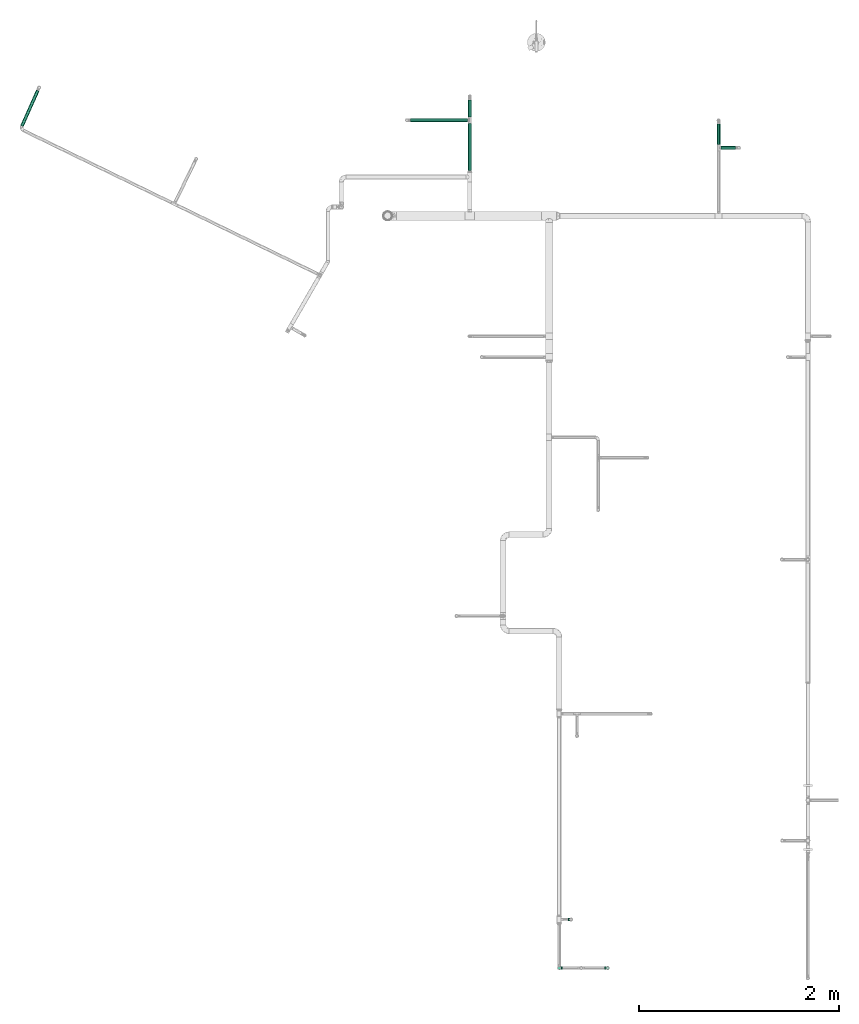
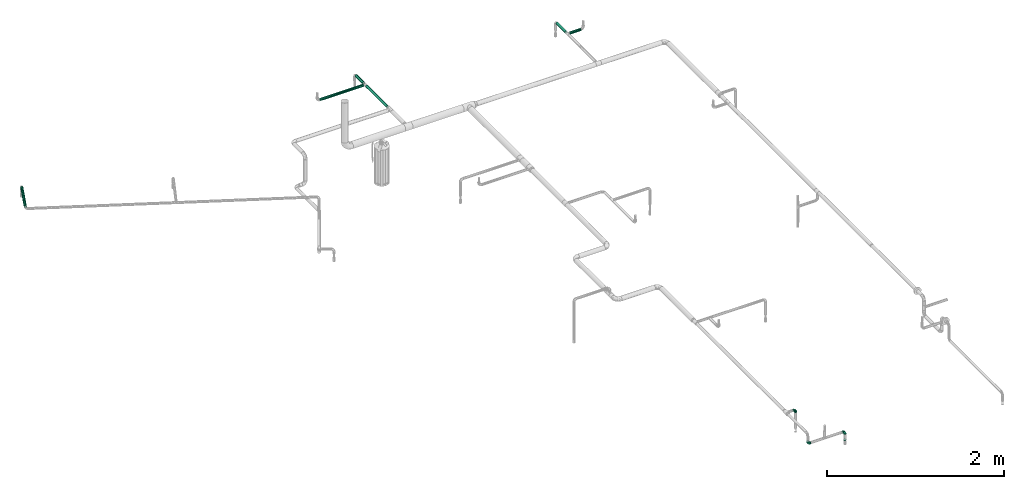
# One storey, part 11 of 43: 6 flow segments, 4 flow fittings.
"""IFC2X3 building model written with IfcOpenShell, lengths in millimetres."""

from ifc_helpers import new_model, entity, si_unit, converted_unit, derived_unit, direction, frame, origin_with_axes, origin_2d_with_axis, place, context, subcontext, project, spatial, hollow_circle, extrude, open_shell, surface_model, source, transform, mapped, type_object, element, save


model = new_model("IFC2X3")

# Units and contexts
model_context = context("Model", 3, precision=0.01, world=frame((0.0, 4.29681676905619e-09, 0.0)), true_north=direction((4.01073788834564e-13, 1.0)))
plan_context = context("Plan", 3, precision=0.01, world=frame((0.0, 4.29681676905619e-09, 0.0)), true_north=direction((4.01073788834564e-13, 1.0)))
body_context = subcontext(model_context, "Body", "Model", "MODEL_VIEW")
ifc_project = project(units=[converted_unit("PLANEANGLEUNIT", "DEGREE", entity("IfcPositiveLengthMeasure", 0.0174532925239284), si_unit("PLANEANGLEUNIT", "RADIAN"), dimensions=[0, 0, 0, 0, 0, 0, 0]), si_unit("AREAUNIT", "SQUARE_METRE"), si_unit("LENGTHUNIT", "METRE", prefix="MILLI"), si_unit("MASSUNIT", "GRAM", prefix="KILO"), si_unit("POWERUNIT", "WATT"), si_unit("PRESSUREUNIT", "PASCAL"), si_unit("FORCEUNIT", "NEWTON", prefix="KILO"), si_unit("ELECTRICVOLTAGEUNIT", "VOLT"), si_unit("ELECTRICCURRENTUNIT", "AMPERE"), si_unit("THERMODYNAMICTEMPERATUREUNIT", "DEGREE_CELSIUS"), si_unit("TIMEUNIT", "SECOND"), si_unit("VOLUMEUNIT", "CUBIC_METRE"), derived_unit("LINEARVELOCITYUNIT", [(si_unit("LENGTHUNIT", "METRE"), 1), (si_unit("TIMEUNIT", "SECOND"), -1)]), derived_unit("VOLUMETRICFLOWRATEUNIT", [(si_unit("VOLUMEUNIT", "CUBIC_METRE"), 1), (si_unit("TIMEUNIT", "SECOND"), -1)]), derived_unit("THERMALTRANSMITTANCEUNIT", [(si_unit("POWERUNIT", "WATT"), 1), (si_unit("THERMODYNAMICTEMPERATUREUNIT", "KELVIN"), -1), (si_unit("AREAUNIT", "SQUARE_METRE"), -1)]), derived_unit("SOUNDPRESSUREUNIT", [(si_unit("PRESSUREUNIT", "PASCAL"), 1)])], contexts=[model_context, plan_context])

# Site, building, storey
site_placement = place(None, frame((0.0, -4.29681676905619e-09, 0.0), z_axis=(0.0, 0.0, 1.0), x_axis=(1.0, 0.0, 0.0)))
site = spatial("IfcSite", under=ifc_project, at=site_placement, CompositionType="ELEMENT")
building_placement = place(site_placement, frame((0.0, 4.29681676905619e-09, 0.0), z_axis=(0.0, 0.0, 1.0), x_axis=(1.0, 0.0, 0.0)))
building = spatial("IfcBuilding", under=site, at=building_placement, Name="mc-building", CompositionType="ELEMENT")
storey_placement = place(building_placement, frame((0.0, 0.0, 210900.0), z_axis=(0.0, 0.0, 1.0), x_axis=(1.0, 0.0, 0.0)))
storey = spatial("IfcBuildingStorey", under=building, at=storey_placement, Name="Nivå F", CompositionType="ELEMENT", Elevation=210900.0)

# Flow fittings
pipe_fitting_type_1 = type_object("IfcPipeFittingType", Name="magi_pipe_fe_elbow_short_001", PredefinedType="BEND")
shared_shape_1 = source(origin_with_axes(), body_context, "Body", "SurfaceModel", [
    surface_model("IfcShellBasedSurfaceModel", [(-33.8, 4.37404, -16.32415), (-33.8, 0.0, -16.9), (-33.8, 11.9501, -11.9501), (-33.8, 8.45, -14.63583), (-33.8, 16.32415, -4.37404), (-33.8, 14.63583, -8.45), (-33.8, -14.63583, -8.45), (-33.8, -16.32415, -4.37404), (-33.8, -8.45, 14.63583), (-33.8, -11.9501, -11.9501), (-33.8, -8.45, -14.63583), (-33.8, -4.37404, -16.32415), (-33.8, -16.9, 0.0), (-33.8, -16.32415, 4.37404), (-33.8, 11.9501, 11.9501), (-33.8, 14.63583, 8.45), (-33.8, 16.32415, 4.37404), (-33.8, 4.37404, 16.32415), (-33.8, 8.45, 14.63583), (-33.8, -14.63583, 8.45), (-33.8, -11.9501, 11.9501), (-33.8, -4.37404, 16.32415), (-33.8, 0.0, 16.9), (-33.8, 16.9, 0.0), (-11.9501, 33.8, -11.9501), (0.0, 33.8, -16.9), (-4.37404, 33.8, -16.32415), (-8.45, 33.8, -14.63583), (-14.63583, 33.8, -8.45), (-16.32415, 33.8, -4.37404), (14.63583, 33.8, -8.45), (8.45, 33.8, 14.63583), (16.32415, 33.8, -4.37404), (8.45, 33.8, -14.63583), (11.9501, 33.8, -11.9501), (4.37404, 33.8, -16.32415), (16.32415, 33.8, 4.37404), (16.9, 33.8, 0.0), (-11.9501, 33.8, 11.9501), (-16.32415, 33.8, 4.37404), (-14.63583, 33.8, 8.45), (-8.45, 33.8, 14.63583), (-4.37404, 33.8, 16.32415), (11.9501, 33.8, 11.9501), (14.63583, 33.8, 8.45), (0.0, 33.8, 16.9), (4.37404, 33.8, 16.32415), (-16.9, 33.8, 0.0), (-24.79389, -13.12945, 9.48721), (-22.19287, -9.75018, 12.59315), (-24.09897, -14.97035, 0.0), (-14.93934, -10.76256, 8.5297), (-22.46095, -14.75051, 5.27077), (14.75051, 22.46094, 5.27077), (11.9251, 13.23888, 4.33236), (13.04069, 14.39795, 0.0), (7.71387, 13.68847, 11.55891), (9.75018, 22.19287, 12.59315), (4.10169, 13.0571, 14.04018), (-24.84007, -6.39063, 15.2048), (-25.81779, -2.23879, 16.61097), (-23.66549, 2.59054, 16.87119), (-26.50418, 14.06512, 11.08152), (-24.21253, 17.66365, 7.72657), (-29.58514, 15.86957, 7.00283), (-6.17382, -7.5455, 0.0), (-13.23888, -11.9251, 4.33236), (-14.39795, -13.04069, 0.0), (-17.81434, 18.87373, 11.97104), (-6.30846, 29.15138, 15.82987), (-2.31622, 25.28002, 16.85849), (-29.23923, 10.23435, 13.77053), (-1.45439, -2.85688, 7.61475), (-0.28326, 0.34872, 10.09509), (-5.74484, -4.04709, 10.4122), (-4.41137, 11.31918, 16.59407), (-8.39727, 3.10034, 15.7812), (-1.72649, 9.1306, 15.53089), (-17.39909, 24.75344, 7.64977), (-26.19233, 20.0512, 0.0), (-28.14518, 17.29657, 4.25857), (-26.05147, 6.6281, 15.96447), (-5.87354, 16.61944, 16.86968), (-12.51807, 12.51807, 16.48937), (-10.06312, 7.38516, 16.81295), (-3.01882, 3.01882, 13.81718), (-13.0571, -4.10169, 14.04018), (-16.82553, -0.15166, 16.38038), (10.76256, 14.93934, 8.5297), (13.12945, 24.79389, 9.48721), (6.39063, 24.84007, 15.2048), (2.23879, 25.81779, 16.61097), (-13.68847, -7.71387, 11.55891), (14.97035, 24.09897, 0.0), (-7.30894, 22.89991, 16.09489), (-10.67958, 26.17414, 14.008), (-12.78295, 18.26924, 15.06066), (-13.88562, 22.45231, 12.93244), (-18.04944, 15.16501, 14.04434), (-23.11658, 20.08178, 4.02986), (-21.84989, 21.84989, 0.0), (-18.55817, 25.48277, 3.93065), (-13.95142, 26.94732, 11.03289), (-18.57098, 7.23906, 16.59756), (-16.58335, 4.14122, 16.89279), (-17.96666, 11.46709, 15.63151), (-9.84453, 17.54304, 16.18938), (0.15166, 16.82553, 16.38038), (-23.27207, 11.47201, 14.23154), (3.84842, 5.86994, 10.70473), (-8.0212, -7.54413, 7.93275), (1.00345, -2.19508, 4.57414), (5.13203, 3.01004, 5.90201), (5.24161, 1.7543, 2.53265), (8.70457, 7.04947, 3.99182), (-20.0512, 26.19233, 0.0), (8.4852, 8.76699, 7.09296), (-4.55488, -6.72064, 4.90681), (2.05031, -2.05031, 0.0), (7.5455, 6.17382, 0.0), (-26.75399, 2.1369, -16.845), (-14.61995, 24.73803, -11.27736), (-28.45274, -13.45335, -9.81895), (-26.00469, 6.63555, -15.96645), (-23.06726, 20.04573, -4.26202), (-13.80647, -4.26506, -14.17873), (-14.67501, -0.21081, -16.07388), (-6.7902, -0.2828, -13.8478), (-24.53586, 11.08096, -14.13417), (-26.72048, 14.00837, -11.05776), (10.0967, 24.44989, -12.75976), (5.83237, 21.40218, -15.03047), (6.66249, 28.54238, -15.38093), (-20.38182, 15.48705, -12.74596), (-15.65186, 19.64213, -13.01327), (-12.03528, 20.66498, -14.67665), (-15.61907, 15.61906, -14.83879), (-25.56551, -15.26206, 0.0), (-24.65452, -15.12934, -5.50955), (12.53268, 21.23441, -9.15363), (13.45335, 28.45274, -9.81895), (15.12934, 24.65452, -5.50955), (-7.35442, -8.31014, -5.65563), (-15.67504, -12.54494, -5.54878), (-24.44989, -10.0967, -12.75976), (0.16522, 0.41303, -9.71728), (-5.70658, -5.33066, -8.89288), (-5.13869, -2.37198, -11.53565), (-21.23441, -12.53268, -9.15363), (0.71146, 7.93863, -14.09382), (0.21081, 14.67501, -16.07388), (3.49291, 14.42772, -14.76381), (-24.89911, -2.13088, -16.591), (-28.54238, -6.66249, -15.38093), (-18.44386, -7.71663, -13.26957), (2.13088, 24.89911, -16.591), (-28.64342, 17.44413, -2.89318), (1.70017, -1.28722, -5.09504), (-16.57067, 26.81947, -7.36596), (-17.69055, 27.4263, -3.76405), (-12.89279, -9.7522, -8.66343), (-5.96611, 5.96611, -15.95814), (-20.53709, 20.09345, -8.28985), (-2.1369, 26.75399, -16.845), (-6.89872, 24.58781, -16.02578), (-10.60739, 26.53157, -13.98044), (-21.40218, -5.83237, -15.03047), (2.93192, 5.89627, -11.55917), (6.89393, 12.61842, -11.82233), (5.58056, 5.95325, -8.79455), (-3.99512, 18.61798, -16.89635), (-9.1383, 9.86148, -16.89041), (-9.99983, 16.02119, -16.39699), (-16.68576, 9.78031, -16.34199), (-27.01915, 16.61158, -7.12979), (15.26206, 25.56551, 0.0), (-18.61798, 3.99512, -16.89635), (-19.37495, 27.82495, 0.0), (9.7522, 12.89279, -8.66343), (-12.61842, -6.89393, -11.82233), (8.31014, 7.35442, -5.65563), (-18.84705, 19.14018, -10.96545), (12.54494, 15.67504, -5.54878)], [open_shell([[[0, 1, 2]], [[3, 0, 2]], [[4, 5, 2]], [[6, 2, 1]], [[2, 7, 8]], [[9, 6, 10]], [[1, 11, 10]], [[10, 6, 1]], [[2, 6, 7]], [[12, 13, 7]], [[4, 2, 14]], [[4, 15, 16]], [[4, 14, 15]], [[17, 18, 14]], [[14, 2, 8]], [[17, 14, 8]], [[19, 20, 13]], [[20, 7, 13]], [[21, 22, 8]], [[20, 8, 7]], [[8, 22, 17]], [[4, 16, 23]], [[24, 25, 26]], [[24, 26, 27]], [[24, 28, 29]], [[25, 24, 30]], [[31, 32, 24]], [[33, 30, 34]], [[33, 35, 25]], [[25, 30, 33]], [[32, 30, 24]], [[32, 36, 37]], [[38, 24, 29]], [[39, 40, 29]], [[40, 38, 29]], [[38, 41, 42]], [[38, 31, 24]], [[31, 38, 42]], [[36, 43, 44]], [[36, 32, 43]], [[31, 45, 46]], [[32, 31, 43]], [[42, 45, 31]], [[39, 29, 47]], [[20, 48, 49]], [[13, 12, 50]], [[51, 48, 52]], [[53, 54, 55]], [[48, 20, 19]], [[13, 52, 19]], [[56, 57, 58]], [[49, 8, 20]], [[49, 59, 8]], [[22, 60, 61]], [[62, 63, 64]], [[65, 66, 67]], [[57, 43, 31]], [[62, 68, 63]], [[42, 69, 70]], [[18, 71, 14]], [[21, 60, 22]], [[72, 73, 74]], [[75, 76, 77]], [[14, 62, 15]], [[40, 39, 78]], [[79, 23, 80]], [[64, 16, 15]], [[22, 61, 17]], [[17, 81, 18]], [[82, 83, 84]], [[74, 85, 86]], [[59, 86, 87]], [[88, 89, 57]], [[90, 31, 46]], [[44, 53, 36]], [[46, 45, 91]], [[54, 53, 88]], [[44, 89, 53]], [[92, 86, 49]], [[89, 44, 43]], [[8, 59, 21]], [[53, 55, 93]], [[93, 36, 53]], [[66, 52, 67]], [[94, 82, 70]], [[95, 96, 94]], [[97, 98, 96]], [[79, 99, 100]], [[41, 38, 95]], [[101, 100, 99]], [[68, 78, 63]], [[42, 41, 69]], [[23, 16, 80]], [[95, 94, 69]], [[78, 101, 99]], [[38, 102, 95]], [[70, 45, 42]], [[97, 95, 102]], [[13, 50, 52]], [[90, 57, 31]], [[57, 90, 58]], [[81, 17, 61]], [[103, 104, 84]], [[105, 81, 103]], [[38, 40, 102]], [[106, 96, 83]], [[94, 106, 82]], [[91, 70, 107]], [[71, 62, 14]], [[62, 108, 98]], [[86, 59, 49]], [[67, 52, 50]], [[60, 59, 87]], [[92, 49, 51]], [[86, 85, 76]], [[91, 90, 46]], [[37, 36, 93]], [[107, 77, 58]], [[107, 58, 90]], [[58, 85, 109]], [[110, 74, 92]], [[72, 74, 110]], [[66, 51, 52]], [[72, 111, 112]], [[113, 114, 112]], [[56, 88, 57]], [[52, 48, 19]], [[49, 48, 51]], [[57, 89, 43]], [[53, 89, 88]], [[103, 81, 61]], [[71, 81, 108]], [[16, 64, 80]], [[63, 78, 99]], [[47, 115, 101]], [[101, 115, 100]], [[40, 78, 102]], [[68, 102, 78]], [[97, 96, 95]], [[105, 98, 108]], [[103, 84, 83]], [[107, 70, 82]], [[76, 84, 87]], [[82, 84, 75]], [[70, 91, 45]], [[90, 91, 107]], [[59, 60, 21]], [[61, 60, 87]], [[73, 85, 74]], [[109, 112, 116]], [[103, 61, 104]], [[105, 103, 83]], [[96, 105, 83]], [[81, 105, 108]], [[96, 98, 105]], [[62, 98, 68]], [[61, 87, 104]], [[87, 84, 104]], [[86, 76, 87]], [[77, 76, 85]], [[58, 77, 85]], [[75, 77, 107]], [[82, 75, 107]], [[76, 75, 84]], [[81, 71, 18]], [[62, 71, 108]], [[95, 69, 41]], [[70, 69, 94]], [[62, 64, 15]], [[80, 63, 99]], [[63, 80, 64]], [[80, 99, 79]], [[66, 65, 117]], [[110, 66, 117]], [[112, 114, 116]], [[118, 117, 65]], [[110, 92, 51]], [[112, 111, 113]], [[119, 55, 54]], [[74, 86, 92]], [[58, 109, 56]], [[116, 56, 109]], [[66, 110, 51]], [[72, 110, 117]], [[111, 72, 117]], [[73, 112, 109]], [[117, 118, 111]], [[113, 111, 118]], [[118, 119, 113]], [[114, 119, 54]], [[119, 114, 113]], [[116, 54, 88]], [[54, 116, 114]], [[116, 88, 56]], [[112, 73, 72]], [[85, 73, 109]], [[78, 39, 101]], [[47, 101, 39]], [[102, 68, 97]], [[97, 68, 98]], [[82, 106, 83]], [[94, 96, 106]], [[0, 120, 1]], [[28, 24, 121]], [[9, 122, 6]], [[3, 123, 0]], [[100, 124, 79]], [[125, 126, 127]], [[128, 2, 129]], [[130, 131, 132]], [[128, 129, 133]], [[134, 135, 136]], [[128, 3, 2]], [[67, 137, 138]], [[139, 140, 141]], [[138, 7, 6]], [[142, 65, 143]], [[144, 9, 10]], [[145, 146, 147]], [[143, 138, 148]], [[149, 150, 151]], [[152, 11, 1]], [[10, 153, 144]], [[148, 144, 154]], [[153, 10, 11]], [[35, 155, 25]], [[23, 79, 156]], [[146, 157, 142]], [[158, 159, 29]], [[143, 160, 142]], [[161, 150, 149]], [[29, 28, 158]], [[121, 162, 158]], [[33, 34, 130]], [[25, 163, 26]], [[26, 163, 164]], [[140, 34, 30]], [[24, 27, 165]], [[124, 159, 162]], [[155, 35, 132]], [[153, 152, 166]], [[123, 3, 128]], [[167, 168, 169]], [[170, 155, 150]], [[26, 164, 27]], [[132, 35, 33]], [[140, 130, 34]], [[166, 152, 126]], [[133, 134, 136]], [[2, 5, 129]], [[168, 131, 130]], [[30, 32, 141]], [[170, 171, 172]], [[173, 123, 128]], [[156, 174, 4]], [[165, 27, 164]], [[172, 164, 170]], [[134, 165, 135]], [[122, 138, 6]], [[137, 12, 7]], [[32, 37, 175]], [[168, 130, 139]], [[150, 155, 131]], [[163, 155, 170]], [[151, 168, 149]], [[150, 161, 171]], [[166, 125, 154]], [[122, 144, 148]], [[120, 152, 1]], [[176, 171, 126]], [[176, 126, 152]], [[126, 161, 127]], [[160, 143, 148]], [[137, 7, 138]], [[32, 175, 141]], [[55, 141, 175]], [[174, 129, 5]], [[128, 133, 136]], [[173, 128, 136]], [[120, 123, 176]], [[121, 158, 28]], [[159, 100, 177]], [[164, 172, 135]], [[121, 24, 165]], [[159, 47, 29]], [[79, 124, 156]], [[124, 162, 174]], [[159, 124, 100]], [[178, 169, 168]], [[127, 161, 149]], [[145, 169, 157]], [[146, 142, 160]], [[127, 149, 167]], [[127, 179, 125]], [[129, 174, 162]], [[5, 4, 174]], [[157, 65, 142]], [[67, 138, 143]], [[123, 120, 0]], [[152, 120, 176]], [[155, 163, 25]], [[164, 163, 170]], [[170, 150, 171]], [[173, 136, 172]], [[126, 171, 161]], [[173, 171, 176]], [[171, 173, 172]], [[123, 173, 176]], [[148, 179, 160]], [[127, 147, 179]], [[179, 146, 160]], [[157, 146, 145]], [[169, 178, 180]], [[168, 139, 178]], [[157, 169, 180]], [[169, 145, 167]], [[167, 145, 147]], [[149, 168, 167]], [[162, 181, 129]], [[181, 121, 134]], [[179, 147, 146]], [[167, 147, 127]], [[181, 134, 133]], [[165, 134, 121]], [[164, 135, 165]], [[172, 136, 135]], [[129, 181, 133]], [[121, 181, 162]], [[159, 158, 162]], [[47, 159, 177]], [[174, 156, 124]], [[23, 156, 4]], [[130, 132, 33]], [[155, 132, 131]], [[141, 140, 30]], [[130, 140, 139]], [[152, 153, 11]], [[144, 153, 166]], [[144, 122, 9]], [[138, 122, 148]], [[150, 131, 151]], [[157, 119, 118]], [[67, 143, 65]], [[168, 151, 131]], [[119, 157, 180]], [[157, 118, 65]], [[154, 125, 179]], [[126, 125, 166]], [[148, 154, 179]], [[166, 154, 144]], [[139, 182, 178]], [[141, 182, 139]], [[178, 182, 180]], [[182, 55, 119]], [[141, 55, 182]], [[182, 119, 180]]])]),
])
for number, where, z_axis, x_axis, name in (
    (1, (607999.57252, 690202.7492, 2660.0), (0.0, -1.0, 0.0), (0.0, 0.0, 1.0), "magi_pipe_fe_elbow_short_001"),
    (2, (607879.57252, 689717.7797, 2524.64999999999), (0.0, -1.0, 0.0), (0.0, 0.0, -1.0), "magi_pipe_fe_elbow_short_001"),
    (3, (608364.57252, 689717.7797, 2524.64999999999), (0.0, 1.0, 0.0), (1.0, 0.0, 0.0), "magi_pipe_fe_elbow_short_001"),
):
    element("IfcFlowFitting", number, at=place(storey_placement, frame(where, z_axis=z_axis, x_axis=x_axis)), inside=storey, type_object=pipe_fitting_type_1, Name=name, context=body_context, shape_type="MappedRepresentation", body=[
        mapped(shared_shape_1, transform((0.0, 0.0, 0.0), scale=1.0)),
    ])
pipe_fitting_type_2 = type_object("IfcPipeFittingType", Name="magi_pipe_fe_reducer_centric_short_NOR", PredefinedType="TRANSITION")
shared_shape_2 = source(origin_with_axes(), body_context, "Body", "SurfaceModel", [
    surface_model("IfcShellBasedSurfaceModel", [(14.4, 4.37404, -16.32415), (14.4, 8.45, -14.63583), (14.4, 11.9501, -11.9501), (14.4, -8.45, -14.63583), (14.4, 16.32415, -4.37404), (14.4, 16.32415, 4.37404), (14.4, 14.63583, -8.45), (14.4, 0.0, -16.9), (14.4, -4.37404, -16.32415), (14.4, -11.9501, -11.9501), (14.4, -16.32415, -4.37404), (14.4, -14.63583, -8.45), (14.4, -16.32415, 4.37404), (14.4, 16.9, 0.0), (14.4, 14.63583, 8.45), (14.4, 11.9501, 11.9501), (14.4, 4.37404, 16.32415), (14.4, 8.45, 14.63583), (14.4, 0.0, 16.9), (14.4, -14.63583, 8.45), (14.4, -16.9, 0.0), (14.4, -8.45, 14.63583), (14.4, -11.9501, 11.9501), (14.4, -4.37404, 16.32415), (12.4, 4.37404, 16.32415), (12.4, -14.63583, 8.45), (12.4, 0.0, 16.9), (12.4, 16.32415, 4.37404), (12.4, 8.45, 14.63583), (12.4, 11.9501, 11.9501), (12.4, 14.63583, 8.45), (12.4, -8.45, 14.63583), (12.4, -11.9501, 11.9501), (12.4, -4.37404, 16.32415), (12.4, -16.32415, 4.37404), (12.4, -16.32415, -4.37404), (12.4, -16.9, 0.0), (12.4, -8.45, -14.63583), (12.4, 16.32415, -4.37404), (12.4, 11.9501, -11.9501), (12.4, 14.63583, -8.45), (12.4, 8.45, -14.63583), (12.4, 4.37404, -16.32415), (12.4, 0.0, -16.9), (12.4, -11.9501, -11.9501), (12.4, -14.63583, -8.45), (12.4, -4.37404, -16.32415), (12.4, 16.9, 0.0), (-2.0, 10.33541, 2.76936), (-2.0, 0.0, 10.7), (-2.0, 2.76936, 10.33541), (-2.0, 7.56604, 7.56604), (-2.0, 5.35, 9.26647), (-2.0, 9.26647, 5.35), (-2.0, -9.26647, 5.35), (-2.0, -2.76936, 10.33541), (-2.0, -7.56604, 7.56604), (-2.0, -5.35, 9.26647), (-2.0, -10.33541, 2.76936), (-2.0, -10.33541, -2.76936), (-2.0, -10.7, 0.0), (-2.0, 10.33541, -2.76936), (-2.0, 7.56604, -7.56604), (-2.0, 9.26647, -5.35), (-2.0, 5.35, -9.26647), (-2.0, -5.35, -9.26647), (-2.0, 2.76936, -10.33541), (-2.0, -7.56604, -7.56604), (-2.0, -9.26647, -5.35), (-2.0, 0.0, -10.7), (-2.0, -2.76936, -10.33541), (-2.0, 10.7, 0.0), (0.0, 5.35, -9.26647), (0.0, 0.0, -10.7), (0.0, 2.76936, -10.33541), (0.0, 10.33541, -2.76936), (0.0, 7.56604, -7.56604), (0.0, -5.35, -9.26647), (0.0, 9.26647, -5.35), (0.0, -9.26647, 5.35), (0.0, -2.76936, -10.33541), (0.0, -7.56604, -7.56604), (0.0, -10.33541, -2.76936), (0.0, -9.26647, -5.35), (0.0, 10.33541, 2.76936), (0.0, 10.7, 0.0), (0.0, 9.26647, 5.35), (0.0, 7.56604, 7.56604), (0.0, 2.76936, 10.33541), (0.0, 0.0, 10.7), (0.0, 5.35, 9.26647), (0.0, -10.33541, 2.76936), (0.0, -10.7, 0.0), (0.0, -7.56604, 7.56604), (0.0, -2.76936, 10.33541), (0.0, -5.35, 9.26647), (0.0, -9.3625, -2.31662), (12.4, -14.42505, -5.97505), (12.4, -15.66253, -2.98753), (0.0, 6.6875, -6.94985), (12.4, 8.96258, -13.18758), (0.0, -6.6875, -6.94985), (12.4, -8.96258, -13.18758), (0.0, 9.3625, -2.31662), (12.4, 15.66253, -2.98753), (12.4, 14.42505, -5.97505), (12.4, -5.97505, -14.42505), (12.4, 5.97505, -14.42505), (0.0, 2.675, -9.26647), (12.4, 13.18758, -8.96258), (0.0, -2.675, -9.26647), (12.4, -13.18758, -8.96258), (0.0, -8.025, -4.63324), (12.4, 2.98753, -15.66253), (0.0, 0.0, -9.26647), (12.4, -2.98753, -15.66253), (0.0, 8.025, -4.63324), (0.0, 9.3625, 2.31662), (12.4, 14.42505, 5.97505), (12.4, 15.66253, 2.98753), (0.0, -6.6875, 6.94985), (12.4, -8.96258, 13.18758), (0.0, 6.6875, 6.94985), (12.4, 8.96258, 13.18758), (0.0, -9.3625, 2.31662), (12.4, -15.66253, 2.98753), (12.4, -14.42505, 5.97505), (12.4, 5.97505, 14.42505), (12.4, -5.97505, 14.42505), (0.0, -2.675, 9.26647), (12.4, -13.18758, 8.96258), (0.0, 2.675, 9.26647), (12.4, 13.18758, 8.96258), (0.0, 8.025, 4.63324), (12.4, -2.98753, 15.66253), (0.0, 0.0, 9.26647), (12.4, 2.98753, 15.66253), (0.0, -8.025, 4.63324)], [open_shell([[[0, 1, 2]], [[3, 0, 2]], [[2, 4, 5]], [[4, 2, 6]], [[2, 5, 3]], [[7, 3, 8]], [[7, 0, 3]], [[9, 10, 11]], [[10, 9, 3]], [[3, 12, 10]], [[5, 4, 13]], [[5, 14, 15]], [[5, 15, 16]], [[16, 12, 3]], [[16, 15, 17]], [[12, 16, 18]], [[18, 19, 12]], [[20, 10, 12]], [[19, 21, 22]], [[19, 18, 21]], [[21, 18, 23]], [[3, 5, 16]], [[24, 25, 26]], [[27, 24, 28]], [[29, 30, 27]], [[29, 27, 28]], [[25, 24, 27]], [[31, 25, 32]], [[31, 33, 26]], [[26, 25, 31]], [[34, 25, 27]], [[34, 35, 36]], [[34, 27, 37]], [[27, 38, 39]], [[39, 38, 40]], [[39, 41, 42]], [[37, 27, 39]], [[42, 43, 39]], [[35, 44, 45]], [[44, 35, 37]], [[37, 43, 46]], [[35, 34, 37]], [[39, 43, 37]], [[38, 27, 47]], [[35, 10, 36]], [[45, 11, 35]], [[3, 44, 37]], [[45, 44, 9]], [[8, 37, 46]], [[35, 11, 10]], [[10, 20, 36]], [[8, 3, 37]], [[9, 44, 3]], [[9, 11, 45]], [[7, 8, 46]], [[46, 43, 7]], [[42, 0, 43]], [[41, 1, 42]], [[6, 39, 40]], [[41, 39, 2]], [[4, 40, 38]], [[41, 2, 1]], [[1, 0, 42]], [[13, 4, 38]], [[6, 40, 4]], [[6, 2, 39]], [[47, 13, 38]], [[43, 0, 7]], [[27, 5, 47]], [[30, 14, 27]], [[17, 29, 28]], [[30, 29, 15]], [[16, 28, 24]], [[27, 14, 5]], [[5, 13, 47]], [[16, 17, 28]], [[15, 29, 17]], [[15, 14, 30]], [[18, 16, 24]], [[24, 26, 18]], [[33, 23, 26]], [[31, 21, 33]], [[19, 32, 25]], [[31, 32, 22]], [[12, 25, 34]], [[31, 22, 21]], [[21, 23, 33]], [[20, 12, 34]], [[19, 25, 12]], [[19, 22, 32]], [[36, 20, 34]], [[26, 23, 18]], [[48, 49, 50]], [[51, 50, 52]], [[51, 53, 48]], [[51, 48, 50]], [[49, 48, 54]], [[55, 56, 57]], [[56, 55, 54]], [[58, 59, 60]], [[54, 55, 49]], [[58, 54, 59]], [[54, 48, 61]], [[59, 54, 61]], [[62, 61, 63]], [[59, 62, 64]], [[61, 62, 59]], [[65, 64, 66]], [[59, 67, 68]], [[67, 59, 65]], [[65, 69, 70]], [[65, 59, 64]], [[66, 69, 65]], [[61, 48, 71]], [[72, 73, 74]], [[75, 72, 76]], [[77, 72, 75]], [[75, 76, 78]], [[79, 77, 75]], [[73, 77, 80]], [[73, 72, 77]], [[81, 82, 83]], [[82, 81, 77]], [[77, 79, 82]], [[84, 75, 85]], [[84, 86, 87]], [[75, 87, 79]], [[88, 89, 87]], [[88, 87, 90]], [[79, 87, 89]], [[82, 91, 92]], [[79, 91, 82]], [[93, 94, 95]], [[94, 93, 79]], [[89, 94, 79]], [[75, 84, 87]], [[59, 82, 60]], [[68, 83, 59]], [[77, 67, 65]], [[68, 67, 81]], [[80, 65, 70]], [[59, 83, 82]], [[82, 92, 60]], [[80, 77, 65]], [[81, 67, 77]], [[81, 83, 68]], [[73, 80, 70]], [[70, 69, 73]], [[66, 74, 69]], [[64, 72, 66]], [[78, 62, 63]], [[64, 62, 76]], [[75, 63, 61]], [[64, 76, 72]], [[72, 74, 66]], [[85, 75, 61]], [[78, 63, 75]], [[78, 76, 62]], [[71, 85, 61]], [[69, 74, 73]], [[48, 84, 71]], [[53, 86, 48]], [[90, 51, 52]], [[53, 51, 87]], [[88, 52, 50]], [[48, 86, 84]], [[84, 85, 71]], [[88, 90, 52]], [[87, 51, 90]], [[87, 86, 53]], [[89, 88, 50]], [[50, 49, 89]], [[55, 94, 49]], [[57, 95, 55]], [[79, 56, 54]], [[57, 56, 93]], [[91, 54, 58]], [[57, 93, 95]], [[95, 94, 55]], [[92, 91, 58]], [[79, 54, 91]], [[79, 93, 56]], [[60, 92, 58]], [[49, 94, 89]], [[29, 26, 39]], [[39, 47, 29]], [[36, 26, 32]], [[36, 44, 43]], [[43, 39, 36]], [[36, 39, 26]], [[92, 95, 77]], [[85, 95, 90]], [[85, 72, 77]], [[85, 77, 95]], [[96, 97, 98]], [[92, 96, 98]], [[99, 100, 72]], [[98, 36, 92]], [[44, 101, 102]], [[101, 77, 102]], [[103, 104, 105]], [[85, 47, 104]], [[77, 106, 102]], [[107, 108, 72]], [[109, 39, 99]], [[106, 77, 110]], [[101, 111, 112]], [[113, 114, 108]], [[100, 99, 39]], [[110, 115, 106]], [[99, 116, 109]], [[100, 107, 72]], [[96, 112, 97]], [[105, 116, 103]], [[85, 104, 103]], [[108, 107, 113]], [[113, 43, 114]], [[116, 105, 109]], [[114, 115, 110]], [[43, 115, 114]], [[111, 101, 44]], [[111, 97, 112]], [[117, 118, 119]], [[85, 117, 119]], [[120, 121, 95]], [[119, 47, 85]], [[29, 122, 123]], [[122, 90, 123]], [[124, 125, 126]], [[92, 36, 125]], [[90, 127, 123]], [[128, 129, 95]], [[130, 32, 120]], [[127, 90, 131]], [[122, 132, 133]], [[134, 135, 129]], [[121, 120, 32]], [[131, 136, 127]], [[120, 137, 130]], [[121, 128, 95]], [[117, 133, 118]], [[126, 137, 124]], [[92, 125, 124]], [[129, 128, 134]], [[134, 26, 135]], [[137, 126, 130]], [[135, 136, 131]], [[26, 136, 135]], [[132, 122, 29]], [[132, 118, 133]]])]),
])
flow_fitting_placement = place(storey_placement, frame((608364.57252, 689717.7797, 2396.95199999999), z_axis=(0.0, 1.0, 0.0), x_axis=(0.0, 0.0, 1.0)))
element("IfcFlowFitting", 4, at=flow_fitting_placement, inside=storey, type_object=pipe_fitting_type_2, Name="magi_pipe_fe_reducer_centric_short_NOR", context=body_context, shape_type="MappedRepresentation", body=[
    mapped(shared_shape_2, transform((0.0, 0.0, 0.0), scale=1.0)),
])

# Flow segments
pipe_segment_type = type_object("IfcPipeSegmentType", Name="Stålrør normaltykke", PredefinedType="RIGIDSEGMENT")
shared_shape_3 = source(origin_with_axes(), body_context, "Body", "SweptSolid", [
    extrude(hollow_circle(Radius=16.9, WallThickness=2.0, at=origin_2d_with_axis()), frame((0.0, 0.0, 0.0), z_axis=(1.0, 0.0, 0.0), x_axis=(0.0, 1.0, 0.0)), (0.0, 0.0, 1.0), 471.3),
])
flow_segment_1_placement = place(storey_placement, frame((606986.48955, 698159.56932, 2660.0), z_axis=(0.0, 0.0, 1.0), x_axis=(0.0, -1.0, 0.0)))
element("IfcFlowSegment", 5, at=flow_segment_1_placement, inside=storey, type_object=pipe_segment_type, Name="Stålrør normaltykke", context=body_context, shape_type="MappedRepresentation", body=[
    mapped(shared_shape_3, transform((0.0, 0.0, 0.0), scale=1.0)),
])
shared_shape_4 = source(origin_with_axes(), body_context, "Body", "SweptSolid", [
    extrude(hollow_circle(Radius=16.9, WallThickness=2.0, at=origin_2d_with_axis()), frame((0.0, 0.0, 0.0), z_axis=(1.0, 0.0, 0.0), x_axis=(0.0, 1.0, 0.0)), (0.0, 0.0, 1.0), 206.2),
])
flow_segment_2_placement = place(storey_placement, frame((609473.7578, 697951.27996, 2660.0), z_axis=(0.0, 0.0, 1.0), x_axis=(0.0, 1.0, 0.0)))
element("IfcFlowSegment", 6, at=flow_segment_2_placement, inside=storey, type_object=pipe_segment_type, Name="Stålrør normaltykke", context=body_context, shape_type="MappedRepresentation", body=[
    mapped(shared_shape_4, transform((0.0, 0.0, 0.0), scale=1.0)),
])
shared_shape_5 = source(origin_with_axes(), body_context, "Body", "SweptSolid", [
    extrude(hollow_circle(Radius=16.9, WallThickness=2.0, at=origin_2d_with_axis()), frame((0.0, 0.0, 0.0), z_axis=(1.0, 0.0, 0.0), x_axis=(0.0, 1.0, 0.0)), (0.0, 0.0, 1.0), 568.9),
])
flow_segment_3_placement = place(storey_placement, frame((606392.22187, 698193.36932, 2660.0), z_axis=(0.0, 0.0, 1.0), x_axis=(1.0, 0.0, 0.0)))
element("IfcFlowSegment", 7, at=flow_segment_3_placement, inside=storey, type_object=pipe_segment_type, Name="Stålrør normaltykke", context=body_context, shape_type="MappedRepresentation", body=[
    mapped(shared_shape_5, transform((0.0, 0.0, 0.0), scale=1.0)),
])
shared_shape_6 = source(origin_with_axes(), body_context, "Body", "SweptSolid", [
    extrude(hollow_circle(Radius=16.9, WallThickness=2.0, at=origin_2d_with_axis()), frame((0.0, 0.0, 0.0), z_axis=(1.0, 0.0, 0.0), x_axis=(0.0, 1.0, 0.0)), (0.0, 0.0, 1.0), 170.2),
])
flow_segment_4_placement = place(storey_placement, frame((606986.48955, 698397.37925, 2660.0), z_axis=(0.0, 0.0, 1.0), x_axis=(0.0, -1.0, 0.0)))
element("IfcFlowSegment", 8, at=flow_segment_4_placement, inside=storey, type_object=pipe_segment_type, Name="Stålrør normaltykke", context=body_context, shape_type="MappedRepresentation", body=[
    mapped(shared_shape_6, transform((0.0, 0.0, 0.0), scale=1.0)),
])
shared_shape_7 = source(origin_with_axes(), body_context, "Body", "SweptSolid", [
    extrude(hollow_circle(Radius=16.9, WallThickness=2.0, at=origin_2d_with_axis()), frame((0.0, 0.0, 0.0), z_axis=(1.0, 0.0, 0.0), x_axis=(0.0, 1.0, 0.0)), (0.0, 0.0, 1.0), 143.8),
])
flow_segment_5_placement = place(storey_placement, frame((609642.89057, 697917.47996, 2660.0), z_axis=(0.0, 0.0, 1.0), x_axis=(-1.0, 0.0, 0.0)))
element("IfcFlowSegment", 9, at=flow_segment_5_placement, inside=storey, type_object=pipe_segment_type, Name="Stålrør normaltykke", context=body_context, shape_type="MappedRepresentation", body=[
    mapped(shared_shape_7, transform((0.0, 0.0, 0.0), scale=1.0)),
])
shared_shape_8 = source(origin_with_axes(), body_context, "Body", "SweptSolid", [
    extrude(hollow_circle(Radius=16.9, WallThickness=2.0, at=origin_2d_with_axis()), frame((0.0, 0.0, 0.0), z_axis=(1.0, 0.0, 0.0), x_axis=(0.0, 1.0, 0.0)), (0.0, 0.0, 1.0), 386.5),
])
flow_segment_6_placement = place(storey_placement, frame((602667.30023, 698488.94346, 2571.79999999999), z_axis=(0.0, 0.0, 1.0), x_axis=(-0.406211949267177, -0.913778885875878, 0.0)))
element("IfcFlowSegment", 10, at=flow_segment_6_placement, inside=storey, type_object=pipe_segment_type, Name="Stålrør normaltykke", context=body_context, shape_type="MappedRepresentation", body=[
    mapped(shared_shape_8, transform((0.0, 0.0, 0.0), scale=1.0)),
])

save(model, "model.ifc")
